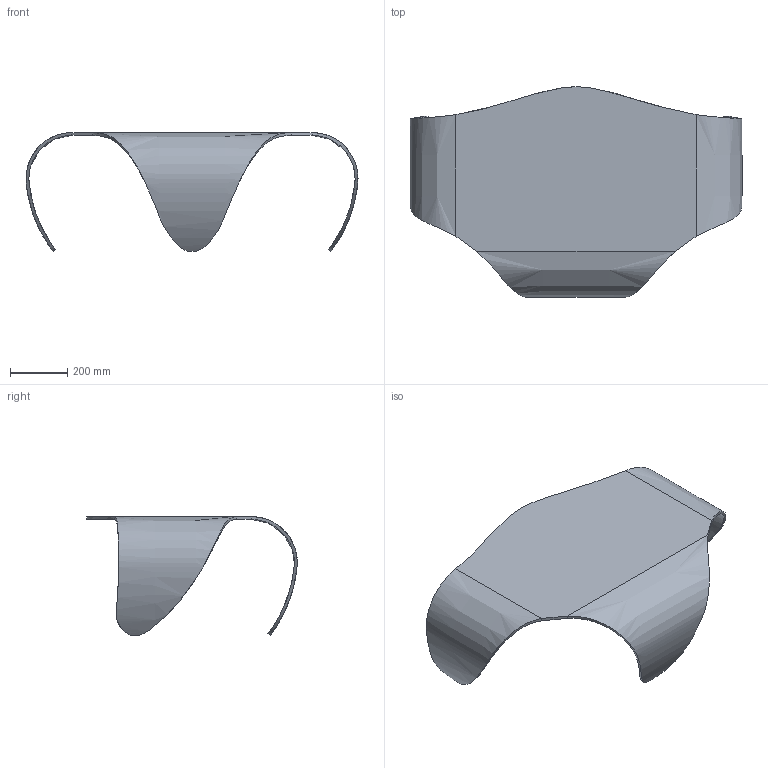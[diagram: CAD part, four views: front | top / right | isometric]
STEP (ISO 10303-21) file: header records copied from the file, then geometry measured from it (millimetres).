
FILE_DESCRIPTION(/* description */ (''),/* implementation_level */ '2;1');
FILE_NAME(/* name */ '042 - Manta 115x71',/* time_stamp */ '2010-11-03T17:50:41+01:00',/* author */ (''),/* organization */ (''),/* preprocessor_version */ 'ST-DEVELOPER v10',/* originating_system */ '',/* authorisation */ '');
FILE_SCHEMA (('CONFIG_CONTROL_DESIGN'));
Length unit declared in the file: centimetre
Products named in the file (1): 1
Bounding box: 1156 x 733 x 413.76 mm (x, y, z)
Volume: 9027915.5 mm3; surface area: 1852518.4 mm2
Topology: 1 solids, 1 shells, 20 faces, 44 edges, 26 vertices
Faces by surface type: bspline 18, plane 2
Entity records: 2194 total; most frequent: CARTESIAN_POINT 1820, ORIENTED_EDGE 88, EDGE_CURVE 44, B_SPLINE_CURVE_WITH_KNOTS 43, VERTEX_POINT 26, ADVANCED_FACE 20, FACE_OUTER_BOUND 20, EDGE_LOOP 20
